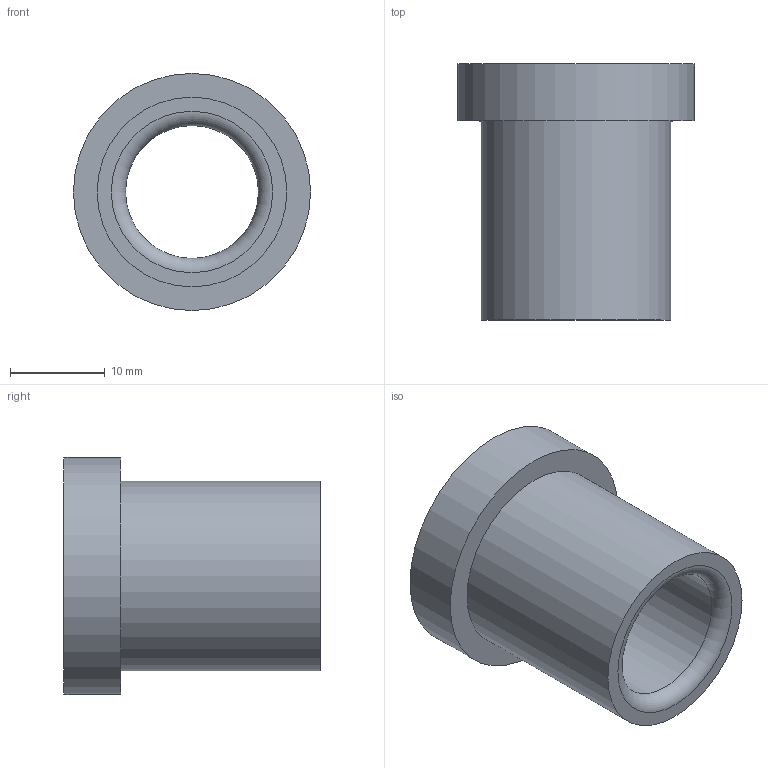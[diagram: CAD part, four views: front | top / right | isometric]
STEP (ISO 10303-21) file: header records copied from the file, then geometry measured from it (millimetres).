
FILE_DESCRIPTION(/* description */ ('STEP AP214'),/* implementation_level */ '2;1');
FILE_NAME(/* name */ '03_12_17905',/* time_stamp */ '2023-06-15T11:35:24+02:00',/* author */ ('License CC BY-ND 4.0'),/* organization */ ('CADENAS'),/* preprocessor_version */ 'ST-DEVELOPER v19.3',/* originating_system */ 'PARTsolutions',/* authorisation */ ' ');
FILE_SCHEMA (('AUTOMOTIVE_DESIGN {1 0 10303 214 3 1 1}'));
Length unit declared in the file: millimetre
Products named in the file (1): VA_Bushing_17905
Bounding box: 25 x 27 x 25 mm (x, y, z)
Volume: 5268.1 mm3; surface area: 3606.4 mm2
Topology: 1 solids, 1 shells, 10 faces, 16 edges, 10 vertices
Faces by surface type: cylinder 4, plane 4, torus 2
Full cylindrical faces by diameter (mm): 14 x1, 14.6 x1, 20 x1, 25 x1
Entity records: 302 total; most frequent: DIRECTION 42, CARTESIAN_POINT 31, AXIS2_PLACEMENT_3D 21, ORIENTED_EDGE 20, EDGE_LOOP 20, FACE_BOUND 20, EDGE_CURVE 10, VERTEX_POINT 10
